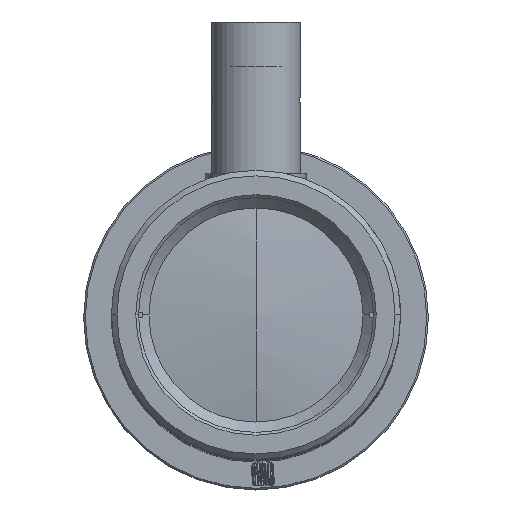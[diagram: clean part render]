
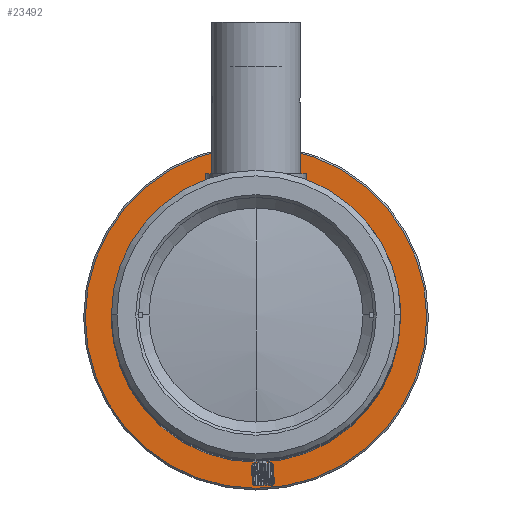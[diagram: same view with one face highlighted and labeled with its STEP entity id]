
A CAD part, top view. The second image highlights one B-rep face of the part: STEP entity #23492.
In plain terms, the highlighted planar face has unit normal (0, 0, 1).
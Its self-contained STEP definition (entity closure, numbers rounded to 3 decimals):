
#311 = DIRECTION ( 'NONE',  ( -1., 0., 0. ) ) ;
#1616 = CIRCLE ( 'NONE', #17906, 26. ) ;
#1849 = CARTESIAN_POINT ( 'NONE',  ( 30.7, 0., -176.007 ) ) ;
#2495 = AXIS2_PLACEMENT_3D ( 'NONE', #6461, #18252, #30343 ) ;
#2714 = PLANE ( 'NONE',  #17869 ) ;
#3756 = VERTEX_POINT ( 'NONE', #6862 ) ;
#4667 = CARTESIAN_POINT ( 'NONE',  ( -30.7, 0., -176.007 ) ) ;
#5038 = AXIS2_PLACEMENT_3D ( 'NONE', #11016, #11158, #20713 ) ;
#5521 = AXIS2_PLACEMENT_3D ( 'NONE', #24664, #7951, #10177 ) ;
#5544 = CIRCLE ( 'NONE', #5521, 26. ) ;
#6461 = CARTESIAN_POINT ( 'NONE',  ( 0., 0., -176.007 ) ) ;
#6862 = CARTESIAN_POINT ( 'NONE',  ( 26., 0., -176.007 ) ) ;
#7817 = FACE_OUTER_BOUND ( 'NONE', #22112, .T. ) ;
#7951 = DIRECTION ( 'NONE',  ( 0., 0., 1. ) ) ;
#10177 = DIRECTION ( 'NONE',  ( 1., 0., 0. ) ) ;
#10203 = DIRECTION ( 'NONE',  ( 0., 0., -1. ) ) ;
#11016 = CARTESIAN_POINT ( 'NONE',  ( 0., 0., -176.007 ) ) ;
#11092 = VERTEX_POINT ( 'NONE', #4667 ) ;
#11158 = DIRECTION ( 'NONE',  ( 0., 0., 1. ) ) ;
#11659 = CIRCLE ( 'NONE', #2495, 30.7 ) ;
#12709 = DIRECTION ( 'NONE',  ( 1., 0., 0. ) ) ;
#13247 = VERTEX_POINT ( 'NONE', #1849 ) ;
#13738 = ORIENTED_EDGE ( 'NONE', *, *, #15404, .F. ) ;
#15404 = EDGE_CURVE ( 'NONE', #3756, #19878, #5544, .T. ) ;
#15579 = EDGE_CURVE ( 'NONE', #11092, #13247, #11659, .T. ) ;
#15673 = CARTESIAN_POINT ( 'NONE',  ( -26., 0., -176.007 ) ) ;
#15972 = EDGE_CURVE ( 'NONE', #13247, #11092, #26901, .T. ) ;
#17869 = AXIS2_PLACEMENT_3D ( 'NONE', #27366, #10203, #311 ) ;
#17906 = AXIS2_PLACEMENT_3D ( 'NONE', #21508, #24799, #12709 ) ;
#18252 = DIRECTION ( 'NONE',  ( 0., 0., 1. ) ) ;
#19069 = EDGE_LOOP ( 'NONE', ( #13738, #23659 ) ) ;
#19878 = VERTEX_POINT ( 'NONE', #15673 ) ;
#20713 = DIRECTION ( 'NONE',  ( -1., 0., 0. ) ) ;
#21508 = CARTESIAN_POINT ( 'NONE',  ( 0., 0., -176.007 ) ) ;
#22112 = EDGE_LOOP ( 'NONE', ( #26840, #26579 ) ) ;
#23492 = ADVANCED_FACE ( 'NONE', ( #7817, #27067 ), #2714, .F. ) ;
#23659 = ORIENTED_EDGE ( 'NONE', *, *, #25817, .F. ) ;
#24664 = CARTESIAN_POINT ( 'NONE',  ( 0., 0., -176.007 ) ) ;
#24799 = DIRECTION ( 'NONE',  ( 0., 0., 1. ) ) ;
#25817 = EDGE_CURVE ( 'NONE', #19878, #3756, #1616, .T. ) ;
#26579 = ORIENTED_EDGE ( 'NONE', *, *, #15972, .T. ) ;
#26840 = ORIENTED_EDGE ( 'NONE', *, *, #15579, .T. ) ;
#26901 = CIRCLE ( 'NONE', #5038, 30.7 ) ;
#27067 = FACE_BOUND ( 'NONE', #19069, .T. ) ;
#27366 = CARTESIAN_POINT ( 'NONE',  ( 0., 26., -176.007 ) ) ;
#30343 = DIRECTION ( 'NONE',  ( -1., 0., 0. ) ) ;
